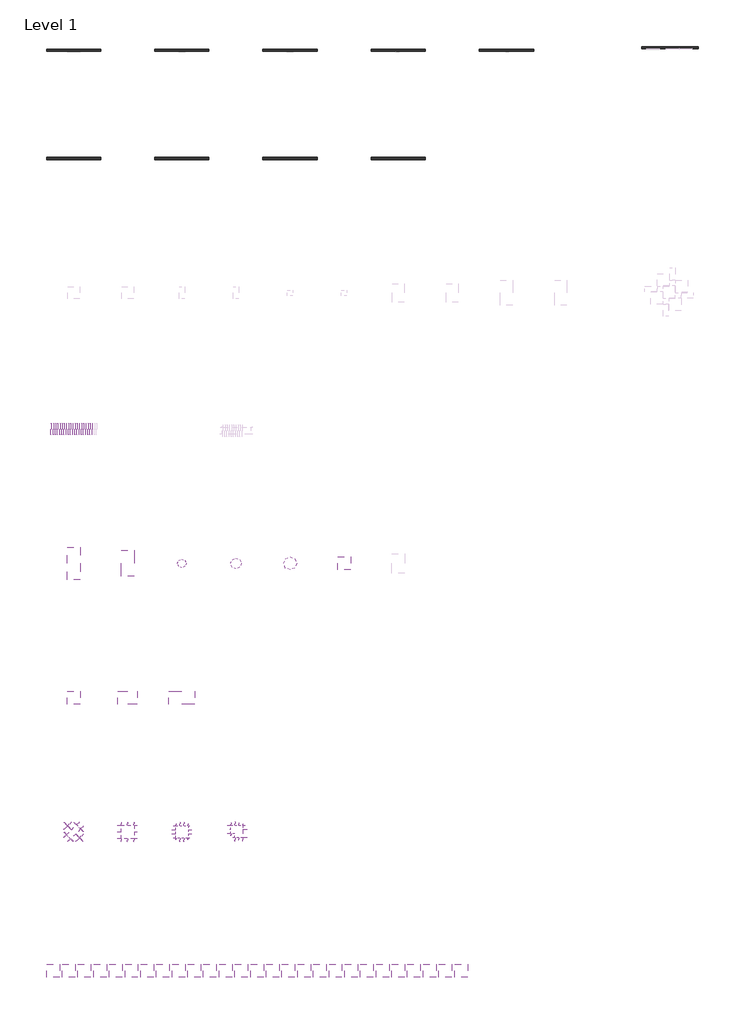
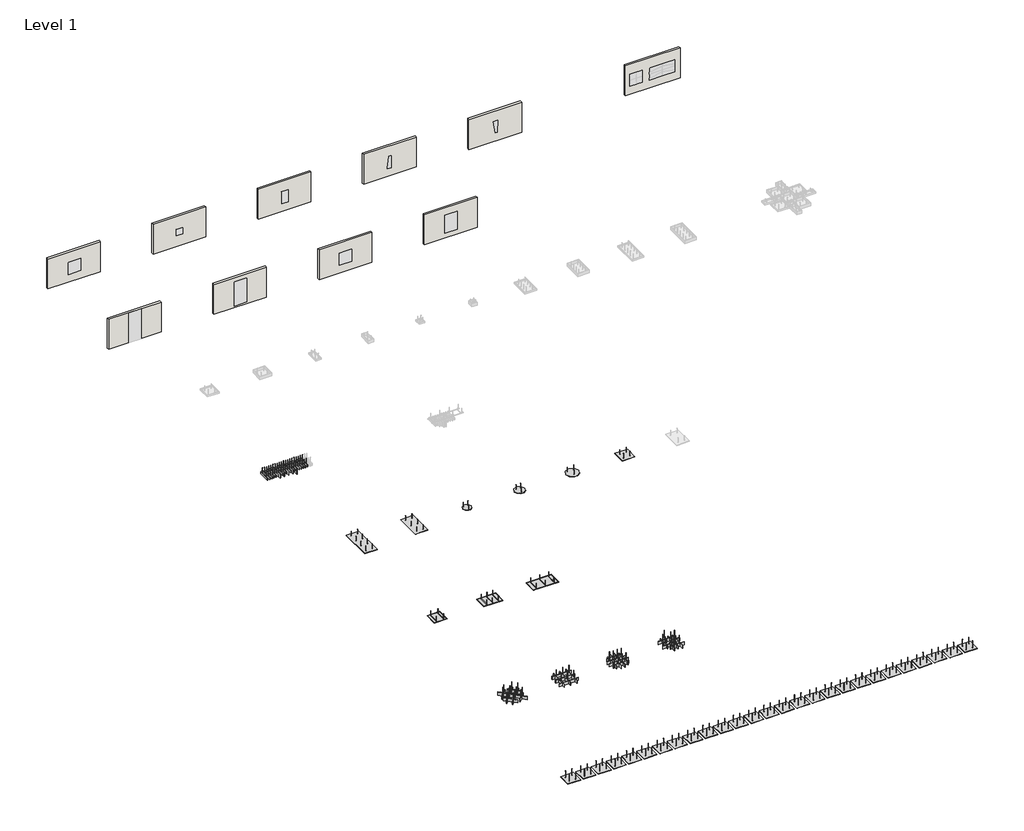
# One storey, part 1 of 2: 60 proxies, 10 walls.
"""IFC4 building model written with IfcOpenShell, lengths in millimetres."""

from ifc_helpers import new_model, si_unit, origin, origin_with_axes, place, context, project, spatial, polyline, outline, extrude, transform, mapped, element, save
from components import specialty_equipment_9a51aed6, specialty_equipment_522a419b, specialty_equipment_8dedf9e6, specialty_equipment_8f9aa0d5, specialty_equipment_cb26eacc, specialty_equipment_895da12a, specialty_equipment_03e5362a, specialty_equipment_ed930d67, specialty_equipment_7388ff7b, specialty_equipment_a36aa70e, specialty_equipment_5c3a35cd, specialty_equipment_45da7169, specialty_equipment_2798e282, specialty_equipment_15bdfbe5, specialty_equipment_c3a507bd, specialty_equipment_e558b074, owa_freestyle_baffle_freestyle_l_403e4e2e, owa_freestyle_baffle_freestyle_m_6130938e, owa_freestyle_baffle_freestyle_s_ccccea6c

model = new_model("IFC4")

# Units and contexts
model_context = context("Model", 3, world=origin())
ifc_project = project(units=[si_unit("LENGTHUNIT", "METRE", prefix="MILLI")], contexts=[model_context])

# Site, building, storey
site = spatial("IfcSite", under=ifc_project)
building = spatial("IfcBuilding", under=site)
storey = spatial("IfcBuildingStorey", under=building, Name="Level 1", Elevation=0.0)

# Proxies
placement = place(None, origin())
specialty_equipment_shape = specialty_equipment_9a51aed6(model_context)
element("IfcBuildingElementProxy", 1, Name="OWA Selecta : Selecta one", ObjectType="OWA Selecta : Selecta one", at=placement, inside=storey, context=model_context, shape_type="MappedRepresentation", body=[
    mapped(specialty_equipment_shape, transform((27612.2416021, -19326.8850129, 2850.0), x_axis=(0.0, -1.0, 0.0), y_axis=(-1.0, 0.0, 0.0), z_axis=(0.0, 0.0, -1.0))),
])
specialty_equipment_2_shape = specialty_equipment_522a419b(model_context)
element("IfcBuildingElementProxy", 2, Name="OWA Selecta : Selecta grande", ObjectType="OWA Selecta : Selecta grande", at=placement, inside=storey, context=model_context, shape_type="MappedRepresentation", body=[
    mapped(specialty_equipment_2_shape, transform((7612.2416021, -19326.8850129, 2850.0), x_axis=(0.0, -1.0, 0.0), y_axis=(-1.0, 0.0, 0.0), z_axis=(0.0, 0.0, -1.0))),
])
specialty_equipment_3_shape = specialty_equipment_8dedf9e6(model_context)
element("IfcBuildingElementProxy", 3, Name="OWA Selecta : Selecta loop 1000", ObjectType="OWA Selecta : Selecta loop 1000", at=placement, inside=storey, context=model_context, shape_type="MappedRepresentation", body=[
    mapped(specialty_equipment_3_shape, transform((17178.7416021, -18893.3850129, 2850.0), x_axis=(-1.0, 0.0, 0.0), y_axis=(0.0, 1.0, 0.0), z_axis=(0.0, 0.0, -1.0))),
])
specialty_equipment_4_shape = specialty_equipment_8f9aa0d5(model_context)
element("IfcBuildingElementProxy", 4, Name="OWA Selecta : Selecta loop 1200", ObjectType="OWA Selecta : Selecta loop 1200", at=placement, inside=storey, context=model_context, shape_type="MappedRepresentation", body=[
    mapped(specialty_equipment_4_shape, transform((22178.7416021, -18893.3850129, 2850.0), x_axis=(-1.0, 0.0, 0.0), y_axis=(0.0, 1.0, 0.0), z_axis=(0.0, 0.0, -1.0))),
])
specialty_equipment_5_shape = specialty_equipment_cb26eacc(model_context)
element("IfcBuildingElementProxy", 5, Name="OWA Selecta : Selecta loop 800", ObjectType="OWA Selecta : Selecta loop 800", at=placement, inside=storey, context=model_context, shape_type="MappedRepresentation", body=[
    mapped(specialty_equipment_5_shape, transform((12178.7416021, -18893.3850129, 2850.0), x_axis=(-1.0, 0.0, 0.0), y_axis=(0.0, 1.0, 0.0), z_axis=(0.0, 0.0, -1.0))),
])
specialty_equipment_6_shape = specialty_equipment_895da12a(model_context)
specialty_equipment_7_shape = specialty_equipment_03e5362a(model_context)
element("IfcBuildingElementProxy", 6, Name="OWA Selecta : Selecta grande XL", ObjectType="OWA Selecta : Selecta grande XL", at=placement, inside=storey, context=model_context, shape_type="MappedRepresentation", body=[
    mapped(specialty_equipment_6_shape, transform((2612.2416021, -19326.8850129, 2850.0), x_axis=(0.0, -1.0, 0.0), y_axis=(-1.0, 0.0, 0.0), z_axis=(0.0, 0.0, -1.0))),
    mapped(specialty_equipment_7_shape, transform((2612.2416021, -19326.8850129, 2850.0), x_axis=(0.0, -1.0, 0.0), y_axis=(-1.0, 0.0, 0.0), z_axis=(0.0, 0.0, -1.0))),
])
specialty_equipment_8_shape = specialty_equipment_ed930d67(model_context)
element("IfcBuildingElementProxy", 7, Name="OWA Selecta Metal : Selecta Metal one", ObjectType="OWA Selecta Metal : Selecta Metal one", at=placement, inside=storey, context=model_context, shape_type="MappedRepresentation", body=[
    mapped(specialty_equipment_8_shape, transform((2178.7416021, -31293.3850129, 2850.0), x_axis=(-1.0, 0.0, 0.0), y_axis=(0.0, 1.0, 0.0), z_axis=(0.0, 0.0, -1.0))),
])
specialty_equipment_9_shape = specialty_equipment_7388ff7b(model_context)
element("IfcBuildingElementProxy", 8, Name="OWA Selecta Metal : Selecta Metal plus", ObjectType="OWA Selecta Metal : Selecta Metal plus", at=placement, inside=storey, context=model_context, shape_type="MappedRepresentation", body=[
    mapped(specialty_equipment_9_shape, transform((7178.7416021, -31293.3850129, 2850.0), x_axis=(-1.0, 0.0, 0.0), y_axis=(0.0, 1.0, 0.0), z_axis=(0.0, 0.0, -1.0))),
])
specialty_equipment_10_shape = specialty_equipment_a36aa70e(model_context)
element("IfcBuildingElementProxy", 9, Name="OWA Selecta Metal : Selecta Metal grande", ObjectType="OWA Selecta Metal : Selecta Metal grande", at=placement, inside=storey, context=model_context, shape_type="MappedRepresentation", body=[
    mapped(specialty_equipment_10_shape, transform((12178.7416021, -31293.3850129, 2850.0), x_axis=(-1.0, 0.0, 0.0), y_axis=(0.0, 1.0, 0.0), z_axis=(0.0, 0.0, -1.0))),
])
specialty_equipment_11_shape = specialty_equipment_5c3a35cd(model_context)
element("IfcBuildingElementProxy", 10, Name="OWA FreeStyle cells : FreeStyle  cells Star", ObjectType="OWA FreeStyle cells : FreeStyle  cells Star", at=placement, inside=storey, context=model_context, shape_type="MappedRepresentation", body=[
    mapped(specialty_equipment_11_shape, transform((2178.7416021, -43693.3850129, 2850.0), x_axis=(-1.0, 0.0, 0.0), y_axis=(0.0, 1.0, 0.0), z_axis=(0.0, 0.0, -1.0))),
])
specialty_equipment_12_shape = specialty_equipment_45da7169(model_context)
element("IfcBuildingElementProxy", 11, Name="OWA FreeStyle cells : FreeStyle cells Square", ObjectType="OWA FreeStyle cells : FreeStyle cells Square", at=placement, inside=storey, context=model_context, shape_type="MappedRepresentation", body=[
    mapped(specialty_equipment_12_shape, transform((7178.7416021, -43693.3850129, 2850.0), x_axis=(-1.0, 0.0, 0.0), y_axis=(0.0, 1.0, 0.0), z_axis=(0.0, 0.0, -1.0))),
])
specialty_equipment_13_shape = specialty_equipment_2798e282(model_context)
element("IfcBuildingElementProxy", 12, Name="OWA FreeStyle cells : FreeStyle cells Circle", ObjectType="OWA FreeStyle cells : FreeStyle cells Circle", at=placement, inside=storey, context=model_context, shape_type="MappedRepresentation", body=[
    mapped(specialty_equipment_13_shape, transform((12178.7416021, -43693.3850129, 2850.0), x_axis=(-1.0, 0.0, 0.0), y_axis=(0.0, 1.0, 0.0), z_axis=(0.0, 0.0, -1.0))),
])
specialty_equipment_14_shape = specialty_equipment_15bdfbe5(model_context)
element("IfcBuildingElementProxy", 13, Name="OWA FreeStyle cells : FreeStyle cells Asymmetrical", ObjectType="OWA FreeStyle cells : FreeStyle cells Asymmetrical", at=placement, inside=storey, context=model_context, shape_type="MappedRepresentation", body=[
    mapped(specialty_equipment_14_shape, transform((18123.6297495, -43676.4791346, 2850.0), x_axis=(1.0, 0.0, 0.0), y_axis=(0.0, -1.0, 0.0), z_axis=(0.0, 0.0, -1.0))),
])
specialty_equipment_15_shape = specialty_equipment_c3a507bd(model_context)
element("IfcBuildingElementProxy", 14, Name="OWA Selecta : Selecta one", ObjectType="OWA Selecta : Selecta one", at=placement, inside=storey, context=model_context, shape_type="MappedRepresentation", body=[
    mapped(specialty_equipment_15_shape, transform((278.7416021, -56550.6756234, 2850.0), x_axis=(-1.0, 0.0, 0.0), y_axis=(0.0, 1.0, 0.0), z_axis=(0.0, 0.0, -1.0))),
])
element("IfcBuildingElementProxy", 15, Name="OWA Selecta : Selecta one", ObjectType="OWA Selecta : Selecta one", at=placement, inside=storey, context=model_context, shape_type="MappedRepresentation", body=[
    mapped(specialty_equipment_15_shape, transform((1728.7416021, -56550.6756234, 2850.0), x_axis=(-1.0, 0.0, 0.0), y_axis=(0.0, 1.0, 0.0), z_axis=(0.0, 0.0, -1.0))),
])
specialty_equipment_16_shape = specialty_equipment_e558b074(model_context)
element("IfcBuildingElementProxy", 16, Name="OWA Selecta : Selecta one", ObjectType="OWA Selecta : Selecta one", at=placement, inside=storey, context=model_context, shape_type="MappedRepresentation", body=[
    mapped(specialty_equipment_16_shape, transform((4045.7416021, -56550.6756234, 2850.0), x_axis=(1.0, 0.0, 0.0), y_axis=(0.0, -1.0, 0.0), z_axis=(0.0, 0.0, -1.0))),
])
element("IfcBuildingElementProxy", 17, Name="OWA Selecta : Selecta one", ObjectType="OWA Selecta : Selecta one", at=placement, inside=storey, context=model_context, shape_type="MappedRepresentation", body=[
    mapped(specialty_equipment_16_shape, transform((6945.741602, -56550.6756234, 2850.0), x_axis=(1.0, 0.0, 0.0), y_axis=(0.0, -1.0, 0.0), z_axis=(0.0, 0.0, -1.0))),
])
element("IfcBuildingElementProxy", 18, Name="OWA Selecta : Selecta one", ObjectType="OWA Selecta : Selecta one", at=placement, inside=storey, context=model_context, shape_type="MappedRepresentation", body=[
    mapped(specialty_equipment_16_shape, transform((5495.7416021, -56550.6756234, 2850.0), x_axis=(1.0, 0.0, 0.0), y_axis=(0.0, -1.0, 0.0), z_axis=(0.0, 0.0, -1.0))),
])
element("IfcBuildingElementProxy", 19, Name="OWA Selecta : Selecta one", ObjectType="OWA Selecta : Selecta one", at=placement, inside=storey, context=model_context, shape_type="MappedRepresentation", body=[
    mapped(specialty_equipment_16_shape, transform((9845.741602, -56550.6756234, 2850.0), x_axis=(1.0, 0.0, 0.0), y_axis=(0.0, -1.0, 0.0), z_axis=(0.0, 0.0, -1.0))),
])
element("IfcBuildingElementProxy", 20, Name="OWA Selecta : Selecta one", ObjectType="OWA Selecta : Selecta one", at=placement, inside=storey, context=model_context, shape_type="MappedRepresentation", body=[
    mapped(specialty_equipment_16_shape, transform((8395.741602, -56550.6756234, 2850.0), x_axis=(1.0, 0.0, 0.0), y_axis=(0.0, -1.0, 0.0), z_axis=(0.0, 0.0, -1.0))),
])
element("IfcBuildingElementProxy", 21, Name="OWA Selecta : Selecta one", ObjectType="OWA Selecta : Selecta one", at=placement, inside=storey, context=model_context, shape_type="MappedRepresentation", body=[
    mapped(specialty_equipment_16_shape, transform((18545.741602, -56550.6756234, 2850.0), x_axis=(1.0, 0.0, 0.0), y_axis=(0.0, -1.0, 0.0), z_axis=(0.0, 0.0, -1.0))),
])
element("IfcBuildingElementProxy", 22, Name="OWA Selecta : Selecta one", ObjectType="OWA Selecta : Selecta one", at=placement, inside=storey, context=model_context, shape_type="MappedRepresentation", body=[
    mapped(specialty_equipment_16_shape, transform((17095.741602, -56550.6756234, 2850.0), x_axis=(1.0, 0.0, 0.0), y_axis=(0.0, -1.0, 0.0), z_axis=(0.0, 0.0, -1.0))),
])
element("IfcBuildingElementProxy", 23, Name="OWA Selecta : Selecta one", ObjectType="OWA Selecta : Selecta one", at=placement, inside=storey, context=model_context, shape_type="MappedRepresentation", body=[
    mapped(specialty_equipment_15_shape, transform((14778.741602, -56550.6756234, 2850.0), x_axis=(-1.0, 0.0, 0.0), y_axis=(0.0, 1.0, 0.0), z_axis=(0.0, 0.0, -1.0))),
])
element("IfcBuildingElementProxy", 24, Name="OWA Selecta : Selecta one", ObjectType="OWA Selecta : Selecta one", at=placement, inside=storey, context=model_context, shape_type="MappedRepresentation", body=[
    mapped(specialty_equipment_15_shape, transform((11878.741602, -56550.6756234, 2850.0), x_axis=(-1.0, 0.0, 0.0), y_axis=(0.0, 1.0, 0.0), z_axis=(0.0, 0.0, -1.0))),
])
element("IfcBuildingElementProxy", 25, Name="OWA Selecta : Selecta one", ObjectType="OWA Selecta : Selecta one", at=placement, inside=storey, context=model_context, shape_type="MappedRepresentation", body=[
    mapped(specialty_equipment_15_shape, transform((13328.741602, -56550.6756234, 2850.0), x_axis=(-1.0, 0.0, 0.0), y_axis=(0.0, 1.0, 0.0), z_axis=(0.0, 0.0, -1.0))),
])
element("IfcBuildingElementProxy", 26, Name="OWA Selecta : Selecta one", ObjectType="OWA Selecta : Selecta one", at=placement, inside=storey, context=model_context, shape_type="MappedRepresentation", body=[
    mapped(specialty_equipment_15_shape, transform((10428.741602, -56550.6756234, 2850.0), x_axis=(-1.0, 0.0, 0.0), y_axis=(0.0, 1.0, 0.0), z_axis=(0.0, 0.0, -1.0))),
])
element("IfcBuildingElementProxy", 27, Name="OWA Selecta : Selecta one", ObjectType="OWA Selecta : Selecta one", at=placement, inside=storey, context=model_context, shape_type="MappedRepresentation", body=[
    mapped(specialty_equipment_15_shape, transform((26378.7416019, -56550.6756234, 2850.0), x_axis=(-1.0, 0.0, 0.0), y_axis=(0.0, 1.0, 0.0), z_axis=(0.0, 0.0, -1.0))),
])
element("IfcBuildingElementProxy", 28, Name="OWA Selecta : Selecta one", ObjectType="OWA Selecta : Selecta one", at=placement, inside=storey, context=model_context, shape_type="MappedRepresentation", body=[
    mapped(specialty_equipment_15_shape, transform((19128.741602, -56550.6756234, 2850.0), x_axis=(-1.0, 0.0, 0.0), y_axis=(0.0, 1.0, 0.0), z_axis=(0.0, 0.0, -1.0))),
])
element("IfcBuildingElementProxy", 29, Name="OWA Selecta : Selecta one", ObjectType="OWA Selecta : Selecta one", at=placement, inside=storey, context=model_context, shape_type="MappedRepresentation", body=[
    mapped(specialty_equipment_16_shape, transform((21445.741602, -56550.6756234, 2850.0), x_axis=(1.0, 0.0, 0.0), y_axis=(0.0, -1.0, 0.0), z_axis=(0.0, 0.0, -1.0))),
])
element("IfcBuildingElementProxy", 30, Name="OWA Selecta : Selecta one", ObjectType="OWA Selecta : Selecta one", at=placement, inside=storey, context=model_context, shape_type="MappedRepresentation", body=[
    mapped(specialty_equipment_16_shape, transform((24345.7416019, -56550.6756234, 2850.0), x_axis=(1.0, 0.0, 0.0), y_axis=(0.0, -1.0, 0.0), z_axis=(0.0, 0.0, -1.0))),
])
element("IfcBuildingElementProxy", 31, Name="OWA Selecta : Selecta one", ObjectType="OWA Selecta : Selecta one", at=placement, inside=storey, context=model_context, shape_type="MappedRepresentation", body=[
    mapped(specialty_equipment_16_shape, transform((22895.741602, -56550.6756234, 2850.0), x_axis=(1.0, 0.0, 0.0), y_axis=(0.0, -1.0, 0.0), z_axis=(0.0, 0.0, -1.0))),
])
element("IfcBuildingElementProxy", 32, Name="OWA Selecta : Selecta one", ObjectType="OWA Selecta : Selecta one", at=placement, inside=storey, context=model_context, shape_type="MappedRepresentation", body=[
    mapped(specialty_equipment_16_shape, transform((25795.7416019, -56550.6756234, 2850.0), x_axis=(1.0, 0.0, 0.0), y_axis=(0.0, -1.0, 0.0), z_axis=(0.0, 0.0, -1.0))),
])
element("IfcBuildingElementProxy", 33, Name="OWA Selecta : Selecta one", ObjectType="OWA Selecta : Selecta one", at=placement, inside=storey, context=model_context, shape_type="MappedRepresentation", body=[
    mapped(specialty_equipment_15_shape, transform((27828.7416019, -56550.6756234, 2850.0), x_axis=(-1.0, 0.0, 0.0), y_axis=(0.0, 1.0, 0.0), z_axis=(0.0, 0.0, -1.0))),
])
element("IfcBuildingElementProxy", 34, Name="OWA Selecta : Selecta one", ObjectType="OWA Selecta : Selecta one", at=placement, inside=storey, context=model_context, shape_type="MappedRepresentation", body=[
    mapped(specialty_equipment_16_shape, transform((30145.7416019, -56550.6756234, 2850.0), x_axis=(1.0, 0.0, 0.0), y_axis=(0.0, -1.0, 0.0), z_axis=(0.0, 0.0, -1.0))),
])
element("IfcBuildingElementProxy", 35, Name="OWA Selecta : Selecta one", ObjectType="OWA Selecta : Selecta one", at=placement, inside=storey, context=model_context, shape_type="MappedRepresentation", body=[
    mapped(specialty_equipment_15_shape, transform((30728.7416019, -56550.6756234, 2850.0), x_axis=(-1.0, 0.0, 0.0), y_axis=(0.0, 1.0, 0.0), z_axis=(0.0, 0.0, -1.0))),
])
element("IfcBuildingElementProxy", 36, Name="OWA Selecta : Selecta one", ObjectType="OWA Selecta : Selecta one", at=placement, inside=storey, context=model_context, shape_type="MappedRepresentation", body=[
    mapped(specialty_equipment_16_shape, transform((33045.7416019, -56550.6756234, 2850.0), x_axis=(1.0, 0.0, 0.0), y_axis=(0.0, -1.0, 0.0), z_axis=(0.0, 0.0, -1.0))),
])
element("IfcBuildingElementProxy", 37, Name="OWA Selecta : Selecta one", ObjectType="OWA Selecta : Selecta one", at=placement, inside=storey, context=model_context, shape_type="MappedRepresentation", body=[
    mapped(specialty_equipment_16_shape, transform((34495.7416019, -56550.6756234, 2850.0), x_axis=(1.0, 0.0, 0.0), y_axis=(0.0, -1.0, 0.0), z_axis=(0.0, 0.0, -1.0))),
])
element("IfcBuildingElementProxy", 38, Name="OWA Selecta : Selecta one", ObjectType="OWA Selecta : Selecta one", at=placement, inside=storey, context=model_context, shape_type="MappedRepresentation", body=[
    mapped(specialty_equipment_15_shape, transform((35078.7416019, -56550.6756234, 2850.0), x_axis=(-1.0, 0.0, 0.0), y_axis=(0.0, 1.0, 0.0), z_axis=(0.0, 0.0, -1.0))),
])
element("IfcBuildingElementProxy", 39, Name="OWA Selecta : Selecta one", ObjectType="OWA Selecta : Selecta one", at=placement, inside=storey, context=model_context, shape_type="MappedRepresentation", body=[
    mapped(specialty_equipment_16_shape, transform((37395.7416019, -56550.6756234, 2850.0), x_axis=(1.0, 0.0, 0.0), y_axis=(0.0, -1.0, 0.0), z_axis=(0.0, 0.0, -1.0))),
])
element("IfcBuildingElementProxy", 40, Name="OWA Selecta : Selecta one", ObjectType="OWA Selecta : Selecta one", at=placement, inside=storey, context=model_context, shape_type="MappedRepresentation", body=[
    mapped(specialty_equipment_15_shape, transform((37978.7416019, -56550.6756234, 2850.0), x_axis=(-1.0, 0.0, 0.0), y_axis=(0.0, 1.0, 0.0), z_axis=(0.0, 0.0, -1.0))),
])
owa_freestyle_baffle_freestyle_l_shape = owa_freestyle_baffle_freestyle_l_403e4e2e(model_context)
element("IfcBuildingElementProxy", 41, Name="OWA FreeStyle Baffle : FreeStyle L", ObjectType="OWA FreeStyle Baffle : FreeStyle L", at=placement, inside=storey, context=model_context, shape_type="MappedRepresentation", body=[
    mapped(owa_freestyle_baffle_freestyle_l_shape, transform((3335.8983303, -6039.8850129, 2850.0), x_axis=(0.0, 1.0, 0.0), y_axis=(1.0, 0.0, 0.0), z_axis=(0.0, 0.0, -1.0))),
])
owa_freestyle_baffle_freestyle_m_shape = owa_freestyle_baffle_freestyle_m_6130938e(model_context)
element("IfcBuildingElementProxy", 42, Name="OWA FreeStyle Baffle : FreeStyle M", ObjectType="OWA FreeStyle Baffle : FreeStyle M", at=placement, inside=storey, context=model_context, shape_type="MappedRepresentation", body=[
    mapped(owa_freestyle_baffle_freestyle_m_shape, transform((1735.8983303, -6039.8850129, 2850.0), x_axis=(0.0, 1.0, 0.0), y_axis=(1.0, 0.0, 0.0), z_axis=(0.0, 0.0, -1.0))),
])
element("IfcBuildingElementProxy", 43, Name="OWA FreeStyle Baffle : FreeStyle M", ObjectType="OWA FreeStyle Baffle : FreeStyle M", at=placement, inside=storey, context=model_context, shape_type="MappedRepresentation", body=[
    mapped(owa_freestyle_baffle_freestyle_m_shape, transform((2135.8983303, -6039.8850129, 2850.0), x_axis=(0.0, 1.0, 0.0), y_axis=(1.0, 0.0, 0.0), z_axis=(0.0, 0.0, -1.0))),
])
element("IfcBuildingElementProxy", 44, Name="OWA FreeStyle Baffle : FreeStyle M", ObjectType="OWA FreeStyle Baffle : FreeStyle M", at=placement, inside=storey, context=model_context, shape_type="MappedRepresentation", body=[
    mapped(owa_freestyle_baffle_freestyle_m_shape, transform((2535.8983303, -6039.8850129, 2850.0), x_axis=(0.0, 1.0, 0.0), y_axis=(1.0, 0.0, 0.0), z_axis=(0.0, 0.0, -1.0))),
])
element("IfcBuildingElementProxy", 45, Name="OWA FreeStyle Baffle : FreeStyle M", ObjectType="OWA FreeStyle Baffle : FreeStyle M", at=placement, inside=storey, context=model_context, shape_type="MappedRepresentation", body=[
    mapped(owa_freestyle_baffle_freestyle_m_shape, transform((2935.8983303, -6039.8850129, 2850.0), x_axis=(0.0, 1.0, 0.0), y_axis=(1.0, 0.0, 0.0), z_axis=(0.0, 0.0, -1.0))),
])
owa_freestyle_baffle_freestyle_s_shape = owa_freestyle_baffle_freestyle_s_ccccea6c(model_context)
element("IfcBuildingElementProxy", 46, Name="OWA FreeStyle Baffle : FreeStyle S", ObjectType="OWA FreeStyle Baffle : FreeStyle S", at=placement, inside=storey, context=model_context, shape_type="MappedRepresentation", body=[
    mapped(owa_freestyle_baffle_freestyle_s_shape, transform((535.8983303, -6039.8850129, 2850.0), x_axis=(0.0, 1.0, 0.0), y_axis=(1.0, 0.0, 0.0), z_axis=(0.0, 0.0, -1.0))),
])
element("IfcBuildingElementProxy", 47, Name="OWA FreeStyle Baffle : FreeStyle S", ObjectType="OWA FreeStyle Baffle : FreeStyle S", at=placement, inside=storey, context=model_context, shape_type="MappedRepresentation", body=[
    mapped(owa_freestyle_baffle_freestyle_s_shape, transform((735.8983303, -6039.8850129, 2850.0), x_axis=(0.0, 1.0, 0.0), y_axis=(1.0, 0.0, 0.0), z_axis=(0.0, 0.0, -1.0))),
])
element("IfcBuildingElementProxy", 48, Name="OWA FreeStyle Baffle : FreeStyle S", ObjectType="OWA FreeStyle Baffle : FreeStyle S", at=placement, inside=storey, context=model_context, shape_type="MappedRepresentation", body=[
    mapped(owa_freestyle_baffle_freestyle_s_shape, transform((935.8983303, -6039.8850129, 2850.0), x_axis=(0.0, 1.0, 0.0), y_axis=(1.0, 0.0, 0.0), z_axis=(0.0, 0.0, -1.0))),
])
element("IfcBuildingElementProxy", 49, Name="OWA FreeStyle Baffle : FreeStyle S", ObjectType="OWA FreeStyle Baffle : FreeStyle S", at=placement, inside=storey, context=model_context, shape_type="MappedRepresentation", body=[
    mapped(owa_freestyle_baffle_freestyle_s_shape, transform((1135.8983303, -6039.8850129, 2850.0), x_axis=(0.0, 1.0, 0.0), y_axis=(1.0, 0.0, 0.0), z_axis=(0.0, 0.0, -1.0))),
])
element("IfcBuildingElementProxy", 50, Name="OWA FreeStyle Baffle : FreeStyle S", ObjectType="OWA FreeStyle Baffle : FreeStyle S", at=placement, inside=storey, context=model_context, shape_type="MappedRepresentation", body=[
    mapped(owa_freestyle_baffle_freestyle_s_shape, transform((1335.8983303, -6039.8850129, 2850.0), x_axis=(0.0, 1.0, 0.0), y_axis=(1.0, 0.0, 0.0), z_axis=(0.0, 0.0, -1.0))),
])
element("IfcBuildingElementProxy", 51, Name="OWA FreeStyle Baffle : FreeStyle S", ObjectType="OWA FreeStyle Baffle : FreeStyle S", at=placement, inside=storey, context=model_context, shape_type="MappedRepresentation", body=[
    mapped(owa_freestyle_baffle_freestyle_s_shape, transform((1535.8983303, -6039.8850129, 2850.0), x_axis=(0.0, 1.0, 0.0), y_axis=(1.0, 0.0, 0.0), z_axis=(0.0, 0.0, -1.0))),
])
element("IfcBuildingElementProxy", 52, Name="OWA FreeStyle Baffle : FreeStyle S", ObjectType="OWA FreeStyle Baffle : FreeStyle S", at=placement, inside=storey, context=model_context, shape_type="MappedRepresentation", body=[
    mapped(owa_freestyle_baffle_freestyle_s_shape, transform((1935.8983303, -6039.8850129, 2850.0), x_axis=(0.0, 1.0, 0.0), y_axis=(1.0, 0.0, 0.0), z_axis=(0.0, 0.0, -1.0))),
])
element("IfcBuildingElementProxy", 53, Name="OWA FreeStyle Baffle : FreeStyle S", ObjectType="OWA FreeStyle Baffle : FreeStyle S", at=placement, inside=storey, context=model_context, shape_type="MappedRepresentation", body=[
    mapped(owa_freestyle_baffle_freestyle_s_shape, transform((2335.8983303, -6039.8850129, 2850.0), x_axis=(0.0, 1.0, 0.0), y_axis=(1.0, 0.0, 0.0), z_axis=(0.0, 0.0, -1.0))),
])
element("IfcBuildingElementProxy", 54, Name="OWA FreeStyle Baffle : FreeStyle S", ObjectType="OWA FreeStyle Baffle : FreeStyle S", at=placement, inside=storey, context=model_context, shape_type="MappedRepresentation", body=[
    mapped(owa_freestyle_baffle_freestyle_s_shape, transform((2735.8983303, -6039.8850129, 2850.0), x_axis=(0.0, 1.0, 0.0), y_axis=(1.0, 0.0, 0.0), z_axis=(0.0, 0.0, -1.0))),
])
element("IfcBuildingElementProxy", 55, Name="OWA FreeStyle Baffle : FreeStyle S", ObjectType="OWA FreeStyle Baffle : FreeStyle S", at=placement, inside=storey, context=model_context, shape_type="MappedRepresentation", body=[
    mapped(owa_freestyle_baffle_freestyle_s_shape, transform((3135.8983303, -6039.8850129, 2850.0), x_axis=(0.0, 1.0, 0.0), y_axis=(1.0, 0.0, 0.0), z_axis=(0.0, 0.0, -1.0))),
])
element("IfcBuildingElementProxy", 56, Name="OWA FreeStyle Baffle : FreeStyle S", ObjectType="OWA FreeStyle Baffle : FreeStyle S", at=placement, inside=storey, context=model_context, shape_type="MappedRepresentation", body=[
    mapped(owa_freestyle_baffle_freestyle_s_shape, transform((3535.8983303, -6039.8850129, 2850.0), x_axis=(0.0, 1.0, 0.0), y_axis=(1.0, 0.0, 0.0), z_axis=(0.0, 0.0, -1.0))),
])
element("IfcBuildingElementProxy", 57, Name="OWA FreeStyle Baffle : FreeStyle S", ObjectType="OWA FreeStyle Baffle : FreeStyle S", at=placement, inside=storey, context=model_context, shape_type="MappedRepresentation", body=[
    mapped(owa_freestyle_baffle_freestyle_s_shape, transform((3735.8983303, -6039.8850129, 2850.0), x_axis=(0.0, 1.0, 0.0), y_axis=(1.0, 0.0, 0.0), z_axis=(0.0, 0.0, -1.0))),
])
element("IfcBuildingElementProxy", 58, Name="OWA FreeStyle Baffle : FreeStyle S", ObjectType="OWA FreeStyle Baffle : FreeStyle S", at=placement, inside=storey, context=model_context, shape_type="MappedRepresentation", body=[
    mapped(owa_freestyle_baffle_freestyle_s_shape, transform((3935.8983303, -6039.8850129, 2850.0), x_axis=(0.0, 1.0, 0.0), y_axis=(1.0, 0.0, 0.0), z_axis=(0.0, 0.0, -1.0))),
])
element("IfcBuildingElementProxy", 59, Name="OWA FreeStyle Baffle : FreeStyle S", ObjectType="OWA FreeStyle Baffle : FreeStyle S", at=placement, inside=storey, context=model_context, shape_type="MappedRepresentation", body=[
    mapped(owa_freestyle_baffle_freestyle_s_shape, transform((4135.8983303, -6039.8850129, 2850.0), x_axis=(0.0, 1.0, 0.0), y_axis=(1.0, 0.0, 0.0), z_axis=(0.0, 0.0, -1.0))),
])
element("IfcBuildingElementProxy", 60, Name="OWA FreeStyle Baffle : FreeStyle S", ObjectType="OWA FreeStyle Baffle : FreeStyle S", at=placement, inside=storey, context=model_context, shape_type="MappedRepresentation", body=[
    mapped(owa_freestyle_baffle_freestyle_s_shape, transform((4335.8983303, -6039.8850129, 2850.0), x_axis=(0.0, 1.0, 0.0), y_axis=(1.0, 0.0, 0.0), z_axis=(0.0, 0.0, -1.0))),
])

# Walls
element("IfcWall", 61, ObjectType="Generic - 200mm", at=placement, inside=storey, context=model_context, shape_type="SweptSolid", body=[
    extrude(outline(polyline([(60312.2416021, 28666.6149871), (55112.2416021, 28666.6149871), (55112.2416021, 28866.6149871), (60312.2416021, 28866.6149871), (60312.2416021, 28666.6149871)])), origin_with_axes(), (0.0, 0.0, 1.0), 3000.0),
])
element("IfcWall", 62, ObjectType="Wand 1", at=placement, inside=storey, context=model_context, shape_type="SweptSolid", body=[
    extrude(outline(polyline([(5112.2416021, 28426.6149871), (112.2416021, 28426.6149871), (112.2416021, 28626.6149871), (5112.2416021, 28626.6149871), (5112.2416021, 28426.6149871)])), origin_with_axes(), (0.0, 0.0, 1.0), 3000.0),
])
element("IfcWall", 63, ObjectType="Wand 1", at=placement, inside=storey, context=model_context, shape_type="SweptSolid", body=[
    extrude(outline(polyline([(15112.2416021, 28426.6149871), (10112.2416021, 28426.6149871), (10112.2416021, 28626.6149871), (15112.2416021, 28626.6149871), (15112.2416021, 28426.6149871)])), origin_with_axes(), (0.0, 0.0, 1.0), 3000.0),
])
element("IfcWall", 64, ObjectType="Wand 1", at=placement, inside=storey, context=model_context, shape_type="SweptSolid", body=[
    extrude(outline(polyline([(25112.2416021, 28426.6149871), (20112.2416021, 28426.6149871), (20112.2416021, 28626.6149871), (25112.2416021, 28626.6149871), (25112.2416021, 28426.6149871)])), origin_with_axes(), (0.0, 0.0, 1.0), 3000.0),
])
element("IfcWall", 65, ObjectType="Wand 1", at=placement, inside=storey, context=model_context, shape_type="SweptSolid", body=[
    extrude(outline(polyline([(35112.2416021, 28426.6149871), (30112.2416021, 28426.6149871), (30112.2416021, 28626.6149871), (35112.2416021, 28626.6149871), (35112.2416021, 28426.6149871)])), origin_with_axes(), (0.0, 0.0, 1.0), 3000.0),
])
element("IfcWall", 66, ObjectType="Wand 1", at=placement, inside=storey, context=model_context, shape_type="SweptSolid", body=[
    extrude(outline(polyline([(45112.2416021, 28426.6149871), (40112.2416021, 28426.6149871), (40112.2416021, 28626.6149871), (45112.2416021, 28626.6149871), (45112.2416021, 28426.6149871)])), origin_with_axes(), (0.0, 0.0, 1.0), 3000.0),
])
element("IfcWall", 67, ObjectType="Wand 1", at=placement, inside=storey, context=model_context, shape_type="SweptSolid", body=[
    extrude(outline(polyline([(5112.2416021, 18426.6149871), (112.2416021, 18426.6149871), (112.2416021, 18626.6149871), (5112.2416021, 18626.6149871), (5112.2416021, 18426.6149871)])), origin_with_axes(), (0.0, 0.0, 1.0), 3000.0),
])
element("IfcWall", 68, ObjectType="Wand 1", at=placement, inside=storey, context=model_context, shape_type="SweptSolid", body=[
    extrude(outline(polyline([(15112.2416021, 18426.6149871), (10112.2416021, 18426.6149871), (10112.2416021, 18626.6149871), (15112.2416021, 18626.6149871), (15112.2416021, 18426.6149871)])), origin_with_axes(), (0.0, 0.0, 1.0), 3000.0),
])
element("IfcWall", 69, ObjectType="Wand 1", at=placement, inside=storey, context=model_context, shape_type="SweptSolid", body=[
    extrude(outline(polyline([(25112.2416021, 18426.6149871), (20112.2416021, 18426.6149871), (20112.2416021, 18626.6149871), (25112.2416021, 18626.6149871), (25112.2416021, 18426.6149871)])), origin_with_axes(), (0.0, 0.0, 1.0), 3000.0),
])
element("IfcWall", 70, ObjectType="Wand 1", at=placement, inside=storey, context=model_context, shape_type="SweptSolid", body=[
    extrude(outline(polyline([(35112.2416021, 18426.6149871), (30112.2416021, 18426.6149871), (30112.2416021, 18626.6149871), (35112.2416021, 18626.6149871), (35112.2416021, 18426.6149871)])), origin_with_axes(), (0.0, 0.0, 1.0), 3000.0),
])

save(model, "model.ifc")
